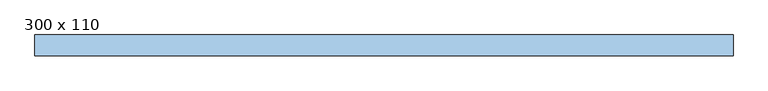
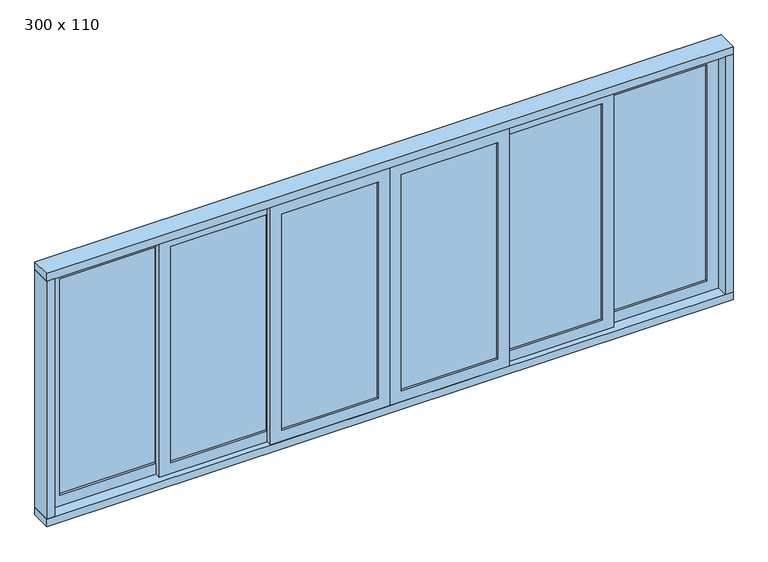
"""IFC4 building model written with IfcOpenShell, lengths in millimetres: window geometry, Janela 6 folhas 300x110 : 300 x 110."""

from ifc_helpers import new_model, si_unit, frame, origin, place, context, project, spatial, polyline, outline, extrude, source, transform, mapped, element, save


def window_300_x_110_bd0b738a(model_context):
    return source(origin(), model_context, "Body", "SweptSolid", [
        extrude(outline(polyline([(-342.2631157, -59.5), (79.4035509, -59.5), (79.4035509, -65.5), (-342.2631157, -65.5), (-342.2631157, -59.5)])), frame((0.0, 0.0, 1050.0), z_axis=(0.0, 0.0, 1.0), x_axis=(1.0, 0.0, 0.0)), (0.0, 0.0, 1.0), 1000.0),
        extrude(outline(polyline([(2100.0, -392.2631157), (1000.0, -392.2631157), (1000.0, 129.4035509), (2100.0, 129.4035509), (2100.0, -392.2631157)]), holes=[polyline([(2050.0, -342.2631157), (2050.0, 79.4035509), (1050.0, 79.4035509), (1050.0, -342.2631157), (2050.0, -342.2631157)])]), frame((0.0, -75.0, 0.0), z_axis=(0.0, 1.0, 0.0), x_axis=(0.0, 0.0, 1.0)), (0.0, 0.0, 1.0), 25.0),
        extrude(outline(polyline([(-813.9297824, -34.5), (-392.2631157, -34.5), (-392.2631157, -40.5), (-813.9297824, -40.5), (-813.9297824, -34.5)])), frame((0.0, 0.0, 1050.0), z_axis=(0.0, 0.0, 1.0), x_axis=(1.0, 0.0, 0.0)), (0.0, 0.0, 1.0), 1000.0),
        extrude(outline(polyline([(2100.0, -863.9297824), (1000.0, -863.9297824), (1000.0, -342.2631157), (2100.0, -342.2631157), (2100.0, -863.9297824)]), holes=[polyline([(2050.0, -813.9297824), (2050.0, -392.2631157), (1050.0, -392.2631157), (1050.0, -813.9297824), (2050.0, -813.9297824)])]), frame((0.0, -50.0, 0.0), z_axis=(0.0, 1.0, 0.0), x_axis=(0.0, 0.0, 1.0)), (0.0, 0.0, 1.0), 25.0),
        extrude(outline(polyline([(-1285.5964491, -9.5), (-863.9297824, -9.5), (-863.9297824, -15.5), (-1285.5964491, -15.5), (-1285.5964491, -9.5)])), frame((0.0, 0.0, 1050.0), z_axis=(0.0, 0.0, 1.0), x_axis=(1.0, 0.0, 0.0)), (0.0, 0.0, 1.0), 1000.0),
        extrude(outline(polyline([(2100.0, -1335.5964491), (1000.0, -1335.5964491), (1000.0, -813.9297824), (2100.0, -813.9297824), (2100.0, -1335.5964491)]), holes=[polyline([(2050.0, -1285.5964491), (2050.0, -863.9297824), (1050.0, -863.9297824), (1050.0, -1285.5964491), (2050.0, -1285.5964491)])]), frame((0.0, -25.0, 0.0), z_axis=(0.0, 1.0, 0.0), x_axis=(0.0, 0.0, 1.0)), (0.0, 0.0, 1.0), 25.0),
        extrude(outline(polyline([(601.0702176, -59.5), (601.0702176, -65.5), (179.4035509, -65.5), (179.4035509, -59.5), (601.0702176, -59.5)])), frame((0.0, 0.0, 1050.0), z_axis=(0.0, 0.0, 1.0), x_axis=(1.0, 0.0, 0.0)), (0.0, 0.0, 1.0), 1000.0),
        extrude(outline(polyline([(2100.0, 651.0702176), (2100.0, 129.4035509), (1000.0, 129.4035509), (1000.0, 651.0702176), (2100.0, 651.0702176)]), holes=[polyline([(2050.0, 601.0702176), (1050.0, 601.0702176), (1050.0, 179.4035509), (2050.0, 179.4035509), (2050.0, 601.0702176)])]), frame((0.0, -75.0, 0.0), z_axis=(0.0, 1.0, 0.0), x_axis=(0.0, 0.0, 1.0)), (0.0, 0.0, 1.0), 25.0),
        extrude(outline(polyline([(1072.7368843, -34.5), (1072.7368843, -40.5), (651.0702176, -40.5), (651.0702176, -34.5), (1072.7368843, -34.5)])), frame((0.0, 0.0, 1050.0), z_axis=(0.0, 0.0, 1.0), x_axis=(1.0, 0.0, 0.0)), (0.0, 0.0, 1.0), 1000.0),
        extrude(outline(polyline([(2100.0, 1122.7368843), (2100.0, 601.0702176), (1000.0, 601.0702176), (1000.0, 1122.7368843), (2100.0, 1122.7368843)]), holes=[polyline([(2050.0, 1072.7368843), (1050.0, 1072.7368843), (1050.0, 651.0702176), (2050.0, 651.0702176), (2050.0, 1072.7368843)])]), frame((0.0, -50.0, 0.0), z_axis=(0.0, 1.0, 0.0), x_axis=(0.0, 0.0, 1.0)), (0.0, 0.0, 1.0), 25.0),
        extrude(outline(polyline([(1544.4035509, -9.5), (1544.4035509, -15.5), (1122.7368843, -15.5), (1122.7368843, -9.5), (1544.4035509, -9.5)])), frame((0.0, 0.0, 1050.0), z_axis=(0.0, 0.0, 1.0), x_axis=(1.0, 0.0, 0.0)), (0.0, 0.0, 1.0), 1000.0),
        extrude(outline(polyline([(2100.0, 1594.4035509), (2100.0, 1072.7368843), (1000.0, 1072.7368843), (1000.0, 1594.4035509), (2100.0, 1594.4035509)]), holes=[polyline([(2050.0, 1544.4035509), (1050.0, 1544.4035509), (1050.0, 1122.7368843), (2050.0, 1122.7368843), (2050.0, 1544.4035509)])]), frame((0.0, -25.0, 0.0), z_axis=(0.0, 1.0, 0.0), x_axis=(0.0, 0.0, 1.0)), (0.0, 0.0, 1.0), 25.0),
        extrude(outline(polyline([(-1370.5964491, 14.1241605), (-1335.5964491, 14.1241605), (-1335.5964491, -75.8758395), (-1370.5964491, -75.8758395), (-1370.5964491, 14.1241605)])), frame((0.0, 0.0, 1000.0), z_axis=(0.0, 0.0, 1.0), x_axis=(1.0, 0.0, 0.0)), (0.0, 0.0, 1.0), 1100.0),
        extrude(outline(polyline([(1594.4035509, 14.1241605), (1629.4035509, 14.1241605), (1629.4035509, -75.8758395), (1594.4035509, -75.8758395), (1594.4035509, 14.1241605)])), frame((0.0, 0.0, 1000.0), z_axis=(0.0, 0.0, 1.0), x_axis=(1.0, 0.0, 0.0)), (0.0, 0.0, 1.0), 1100.0),
        extrude(outline(polyline([(-1370.5964491, 14.1241605), (1629.4035509, 14.1241605), (1629.4035509, -75.8758395), (-1370.5964491, -75.8758395), (-1370.5964491, 14.1241605)])), frame((0.0, 0.0, 965.0), z_axis=(0.0, 0.0, 1.0), x_axis=(1.0, 0.0, 0.0)), (0.0, 0.0, 1.0), 35.0),
        extrude(outline(polyline([(-1370.5964491, 14.1241605), (1629.4035509, 14.1241605), (1629.4035509, -75.8758395), (-1370.5964491, -75.8758395), (-1370.5964491, 14.1241605)])), frame((0.0, 0.0, 2100.0), z_axis=(0.0, 0.0, 1.0), x_axis=(1.0, 0.0, 0.0)), (0.0, 0.0, 1.0), 35.0),
    ])


if __name__ == "__main__":
    model = new_model("IFC4")
    model_context = context("Model", 3, world=origin())
    ifc_project = project(units=[si_unit("LENGTHUNIT", "METRE", prefix="MILLI")], contexts=[model_context])
    site = spatial("IfcSite", under=ifc_project)
    building = spatial("IfcBuilding", under=site)
    placement = place(None, origin())
    window_300_x_110_shape = window_300_x_110_bd0b738a(model_context)
    element("IfcWindow", 1, ObjectType="Janela 6 folhas 300x110 : 300 x 110", at=placement, inside=building, context=model_context, shape_type="MappedRepresentation", body=[
        mapped(window_300_x_110_shape, transform((0.0, 0.0, 0.0), x_axis=(1.0, 0.0, 0.0), y_axis=(0.0, 1.0, 0.0), z_axis=(0.0, 0.0, 1.0))),
    ])
    save(model, "model.ifc")
